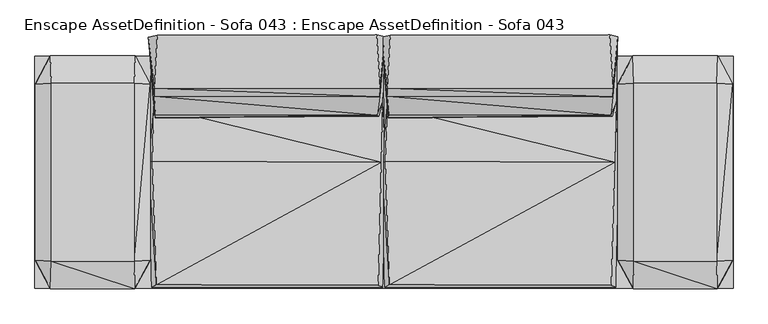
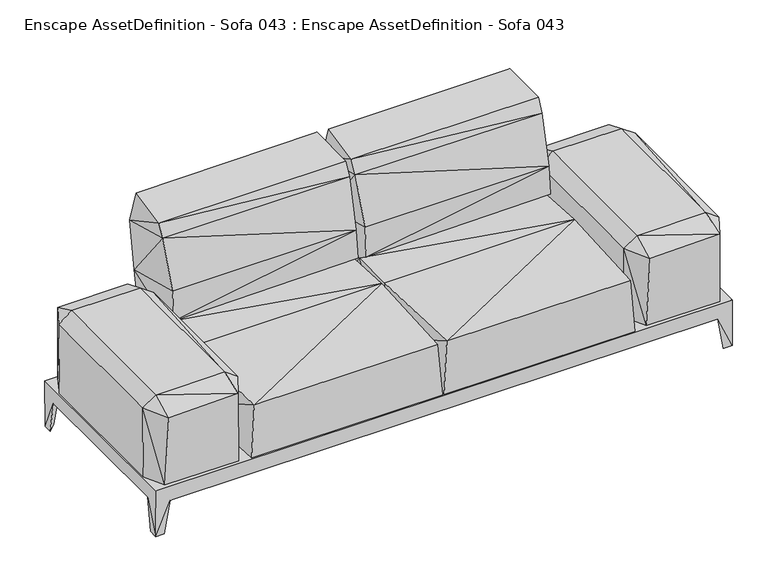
"""IFC4 building model written with IfcOpenShell, lengths in millimetres: geographic element geometry, Enscape AssetDefinition - Sofa 043 : Enscape AssetDefinition - Sofa 043."""

from ifc_helpers import new_model, si_unit, origin, place, context, project, spatial, triangles, source, transform, mapped, element, save


def enscape_assetdefinition_sofa_043_enscape_assetdefinition_e98ad8e1(model_context):
    return source(origin(), model_context, "Body", "Tessellation", [
        triangles([(-799.2539761, 382.3985338, 204.7660624), (-4.2853617, 383.6669157, 204.4889717), (-805.4899326, 430.4737607, 530.1804654), (6.068928, 25.2100096, 198.135962), (-8.633743, 28.8991808, 434.1799662), (-4.4914271, -401.5435862, 202.6954039), (-798.4886885, -402.4558488, 204.1768541), (-782.0844572, -393.1539093, 426.4154692), (-19.9483395, -393.7140859, 426.2784136), (-3.4210868, 236.2040417, 414.9088314), (-789.7259239, 220.4190313, 421.3458658), (-795.5407579, 31.7740962, 429.3944298), (-808.7129917, 25.888225, 197.0976169), (-17.1394437, 185.6559824, 453.694182), (-786.0017326, 180.3082892, 449.0676476), (-22.2680744, 188.9300195, 576.4671387), (-788.7685696, 254.6459211, 768.3211258), (-784.694327, 191.8689571, 574.2294846), (1.3514293, 426.4724788, 532.685218), (2.177692, 459.384932, 729.8448406), (-13.8694057, 252.5962642, 768.4761309), (-808.923008, 457.5283957, 731.7725573), (-25.1379869, 465.2448215, 838.8415306), (-778.3732738, 464.5765846, 837.060898), (-789.5058065, 282.3407059, 819.4573214), (-12.2208826, 282.4867362, 818.9652002), (1154.0797016, 379.6056084, 203.4346393), (803.1491598, 296.7282543, 506.9100108), (854.8005856, 393.3999699, 504.7403395), (858.1006748, 298.9779716, 547.5940101), (1142.9541452, 298.9039391, 547.6909882), (1146.6382954, 393.1779267, 505.2404906), (1198.3417528, 295.282812, 509.7669222), (1198.1146591, -309.2272734, 507.0731186), (1195.605728, 295.4058423, 203.4396353), (1142.9620663, -311.447959, 547.4629498), (1195.5808748, -307.7047646, 204.4129407), (1152.4550915, 297.0113402, 199.2673064), (848.8476786, 296.9873591, 199.2633277), (848.8476786, -309.474315, 199.2633277), (1152.438014, -309.460326, 199.5243947), (846.6510103, 379.2054874, 203.4446496), (805.5949408, -307.7567963, 203.4166353), (805.593996, 295.2698223, 203.4166353), (847.3171761, -391.964556, 205.1431832), (1153.0773645, -392.6147344, 203.4506267), (803.2001741, -309.2202244, 507.0731186), (855.3667574, -406.2140496, 504.5422774), (858.3626501, -311.447959, 547.4629498), (1144.972772, -405.4788474, 509.2968201), (1198.4487957, -404.2974515, 0.0), (1162.2813086, -403.6192225, 0.0), (1138.3526093, -404.154437, 138.5380191), (1197.7715841, -368.129928, 0.0), (1198.308688, -344.2163804, 138.4359904), (1198.7488501, -404.4995104, 201.914147), (-1198.2967701, -404.2974515, 0.0), (-1138.200511, -404.154437, 138.5380191), (-1198.5967518, -404.4995104, 201.914147), (-1162.1291376, -403.6192225, 0.0), (-1197.6184685, -368.129928, 0.0), (-1198.1565897, -344.2163804, 138.4359904), (-1198.1565897, 332.6026634, 138.4359904), (1198.7488501, 392.8868108, 201.914147), (-1138.200511, 392.5417374, 138.5380191), (-1198.2967701, 392.6847519, 0.0), (-1162.1291376, 392.0065593, 0.0), (-1197.6184685, 356.5173011, 0.0), (-1198.5967518, 392.8868108, 201.914147), (1138.3526093, 392.5417374, 138.5380191), (1198.4487957, 392.6847519, 0.0), (1162.2813086, 392.0065593, 0.0), (1198.308688, 332.6026634, 138.4359904), (1197.7715841, 356.5173011, 0.0), (795.9688568, 383.6669157, 204.4889717), (1.0003179, 382.3985338, 204.7660624), (806.3231667, 25.2100096, 198.135962), (-8.4586878, 25.888225, 197.0976169), (780.305932, -393.7140859, 426.2784136), (791.6205757, 28.8991808, 434.1799662), (1.7665612, -402.4558488, 204.1768541), (795.7628374, -401.5435862, 202.6954039), (18.1697723, -393.1539093, 426.4154692), (4.7134977, 31.7740962, 429.3944298), (10.5283454, 220.4190313, 421.3458658), (783.1147722, 185.6559824, 453.694182), (14.2525287, 180.3082892, 449.0676476), (796.8331936, 236.2040417, 414.9088314), (-5.2356633, 430.4737607, 530.1804654), (15.5599435, 191.8689571, 574.2294846), (11.4856498, 254.6459211, 768.3211258), (777.9861609, 188.9300195, 576.4671387), (801.605722, 426.4724788, 532.685218), (10.7484151, 282.3407059, 819.4573214), (786.3848488, 252.5962642, 768.4761309), (802.4319071, 459.384932, 729.8448406), (775.1162779, 465.2448215, 838.8415306), (788.0343121, 282.4867362, 818.9652002), (-8.668754, 457.5283957, 731.7725573), (21.88095, 464.5765846, 837.060898), (-853.9973642, 393.1779267, 505.2404906), (-1145.835074, 393.3999699, 504.7403395), (-1142.5349848, 298.9779716, 547.5940101), (-802.2939068, 295.282812, 509.7669222), (-805.0547848, -307.7047646, 204.4129407), (-857.6815144, 298.9039391, 547.6909882), (-805.0297136, 295.4058423, 203.4396353), (-857.6735207, -311.447959, 547.4629498), (-846.555958, 379.6056084, 203.4346393), (-848.1804955, 297.0113402, 199.2673064), (-848.1974276, -309.460326, 199.5243947), (-1151.787981, -309.474315, 199.2633277), (-1151.787981, 296.9873591, 199.2633277), (-1153.9846493, 379.2054874, 203.4446496), (-1195.0416636, 295.2698223, 203.4166353), (-847.5582951, -392.6147344, 203.4506267), (-1197.4864271, 296.7282543, 506.9100108), (-1195.0407188, -307.7567963, 203.4166353), (-1145.2688295, -406.2140496, 504.5422774), (-1153.3184109, -391.964556, 205.1431832), (-1197.4354128, -309.2202244, 507.0731186), (-855.6628876, -405.4788474, 509.2968201), (-802.5210005, -309.2272734, 507.0731186), (-1142.2728642, -311.447959, 547.4629498)], [[106, 103, 124], [106, 124, 108], [122, 108, 124], [108, 122, 123], [116, 123, 122], [116, 122, 119], [122, 124, 119], [103, 117, 121], [121, 119, 124], [103, 121, 124], [116, 119, 120], [121, 120, 119], [121, 118, 120], [117, 118, 121], [114, 115, 117], [117, 115, 118], [112, 116, 120], [120, 118, 112], [115, 112, 118], [113, 114, 109], [115, 113, 112], [114, 113, 115], [112, 111, 116], [113, 111, 112], [113, 110, 111], [113, 109, 110], [110, 109, 107], [110, 107, 105], [116, 105, 123], [110, 105, 111], [116, 111, 105], [108, 123, 104], [104, 107, 109], [104, 123, 105], [108, 104, 106], [104, 105, 107], [101, 106, 104], [104, 109, 101], [102, 101, 109], [102, 103, 106], [103, 102, 117], [114, 117, 102], [102, 109, 114], [102, 106, 101], [94, 98, 97], [94, 97, 100], [94, 100, 99], [96, 99, 100], [98, 96, 97], [96, 100, 97], [98, 95, 96], [95, 98, 94], [93, 96, 95], [93, 92, 88], [93, 95, 92], [95, 94, 91], [91, 92, 95], [94, 99, 91], [96, 93, 89], [91, 99, 89], [96, 89, 99], [91, 90, 92], [91, 89, 90], [92, 90, 87], [92, 86, 88], [92, 87, 86], [85, 88, 86], [90, 89, 85], [85, 87, 90], [85, 86, 87], [78, 84, 85], [83, 84, 78], [83, 78, 81], [80, 84, 83], [85, 84, 80], [85, 80, 88], [80, 83, 79], [82, 79, 83], [82, 81, 78], [82, 83, 81], [79, 82, 77], [79, 77, 80], [88, 80, 77], [82, 78, 77], [89, 93, 75], [75, 77, 78], [75, 93, 88], [77, 75, 88], [89, 76, 85], [89, 75, 76], [75, 78, 76], [76, 78, 85], [72, 74, 73], [73, 74, 71], [72, 71, 74], [71, 72, 70], [70, 73, 53], [72, 73, 70], [73, 71, 64], [71, 70, 64], [65, 70, 53], [65, 64, 70], [67, 68, 66], [66, 65, 67], [66, 69, 65], [65, 69, 64], [66, 68, 63], [63, 68, 67], [66, 63, 69], [63, 67, 65], [59, 64, 69], [63, 59, 69], [63, 62, 59], [62, 63, 65], [62, 61, 57], [62, 57, 59], [60, 61, 62], [60, 57, 61], [58, 62, 65], [53, 58, 65], [57, 60, 58], [57, 58, 59], [60, 62, 58], [59, 56, 64], [56, 59, 58], [56, 58, 53], [55, 73, 64], [55, 64, 56], [73, 55, 53], [55, 54, 52], [55, 52, 53], [51, 54, 55], [51, 56, 53], [52, 54, 51], [51, 55, 56], [51, 53, 52], [31, 30, 49], [31, 49, 36], [50, 36, 49], [36, 50, 34], [46, 34, 50], [46, 50, 48], [50, 49, 48], [30, 28, 47], [47, 48, 49], [30, 47, 49], [46, 48, 45], [47, 45, 48], [47, 43, 45], [28, 43, 47], [42, 44, 28], [28, 44, 43], [40, 46, 45], [45, 43, 40], [44, 40, 43], [39, 42, 27], [44, 39, 40], [42, 39, 44], [40, 41, 46], [39, 41, 40], [39, 38, 41], [39, 27, 38], [38, 27, 35], [38, 35, 37], [46, 37, 34], [38, 37, 41], [46, 41, 37], [36, 34, 33], [33, 35, 27], [33, 34, 37], [36, 33, 31], [33, 37, 35], [32, 31, 33], [33, 27, 32], [29, 32, 27], [29, 30, 31], [30, 29, 28], [42, 28, 29], [29, 27, 42], [29, 31, 32], [25, 26, 23], [25, 23, 24], [25, 24, 22], [20, 22, 24], [26, 20, 23], [20, 24, 23], [26, 21, 20], [21, 26, 25], [19, 20, 21], [19, 16, 10], [19, 21, 16], [21, 25, 17], [17, 16, 21], [25, 22, 17], [20, 19, 3], [17, 22, 3], [20, 3, 22], [17, 18, 16], [17, 3, 18], [16, 18, 15], [16, 14, 10], [16, 15, 14], [11, 10, 14], [18, 3, 11], [11, 15, 18], [11, 14, 15], [13, 12, 11], [8, 12, 13], [8, 13, 7], [5, 12, 8], [11, 12, 5], [11, 5, 10], [5, 8, 9], [6, 9, 8], [6, 7, 13], [6, 8, 7], [9, 6, 4], [9, 4, 5], [10, 5, 4], [6, 13, 4], [3, 19, 2], [2, 4, 13], [2, 19, 10], [4, 2, 10], [3, 1, 11], [3, 2, 1], [2, 13, 1], [1, 13, 11]]),
    ])


if __name__ == "__main__":
    model = new_model("IFC4")
    model_context = context("Model", 3, world=origin())
    ifc_project = project(units=[si_unit("LENGTHUNIT", "METRE", prefix="MILLI")], contexts=[model_context])
    site = spatial("IfcSite", under=ifc_project)
    building = spatial("IfcBuilding", under=site)
    placement = place(None, origin())
    enscape_assetdefinition_sofa_043_enscape_assetdefinition_shape = enscape_assetdefinition_sofa_043_enscape_assetdefinition_e98ad8e1(model_context)
    element("IfcGeographicElement", 1, ObjectType="Enscape AssetDefinition - Sofa 043 : Enscape AssetDefinition - Sofa 043", at=placement, inside=building, context=model_context, shape_type="MappedRepresentation", body=[
        mapped(enscape_assetdefinition_sofa_043_enscape_assetdefinition_shape, transform((0.0, 0.0, 0.0), x_axis=(1.0, 0.0, 0.0), y_axis=(0.0, 1.0, 0.0), z_axis=(0.0, 0.0, 1.0))),
    ])
    save(model, "model.ifc")
